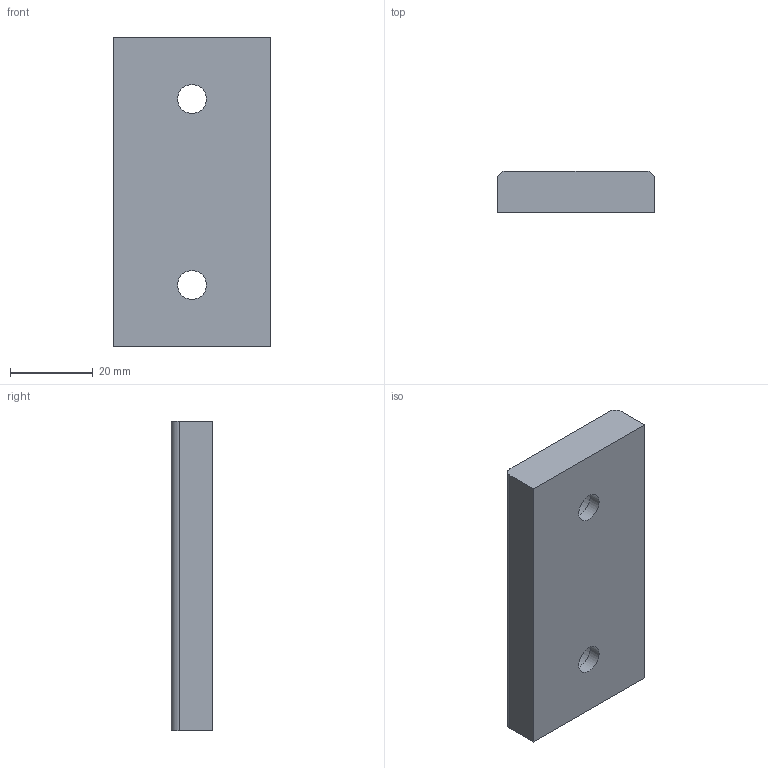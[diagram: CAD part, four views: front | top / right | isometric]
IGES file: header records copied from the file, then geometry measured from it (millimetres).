
Start section: Data from Parasolid IGES Translator 20.0.26, Copyright(c) 2006 Siemens P LM Software. All Rights Reserved.
Global section: file name: G220-01-038-075.igs; native system: By Siemens PLM Incorporated; preprocessor: XPlus GENERIC/IGES 20.0.26; author: Noname; organization: Noname; date: 20190708.082016; units: millimetre
Bounding box: 38 x 10 x 75 mm (x, y, z)
Surface area: 8289.6 mm2 (no closed solid volume)
Topology: 0 solids, 0 shells, 14 faces, 60 edges, 54 vertices
Faces by surface type: extrusion 8, revolution 6
